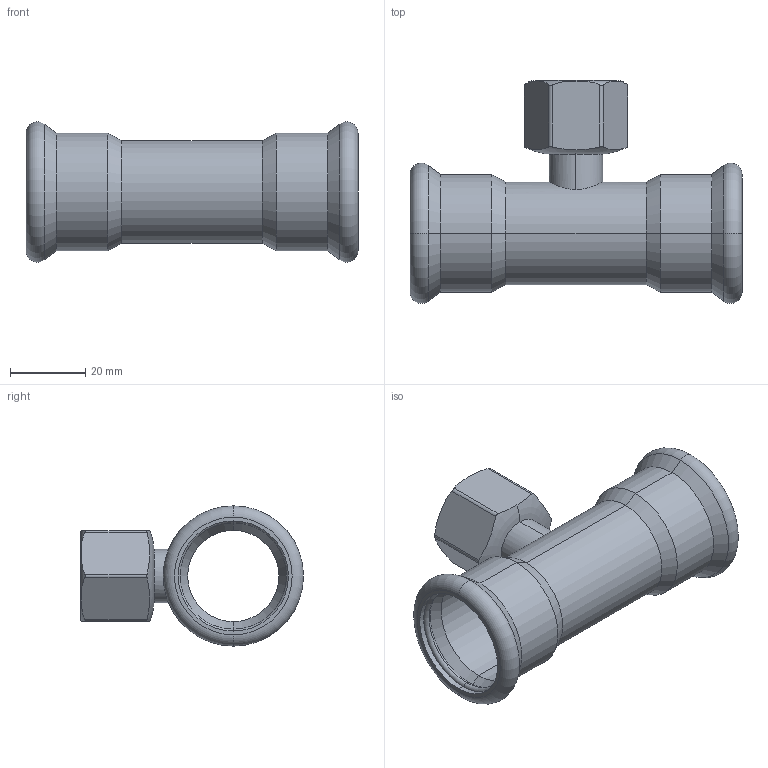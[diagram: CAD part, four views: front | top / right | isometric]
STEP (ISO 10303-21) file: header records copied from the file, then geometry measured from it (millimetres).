
FILE_DESCRIPTION (( 'STEP AP214' ), '1' );
FILE_NAME ('T28150F.STEP', '2025-08-17T14:09:22', ( '' ), ( '' ), 'SwSTEP 2.0', 'SolidWorks 2020', '' );
FILE_SCHEMA (( 'AUTOMOTIVE_DESIGN' ));
Length unit declared in the file: millimetre
Products named in the file (1): T28150F
Bounding box: 88 x 59.1 x 37.2 mm (x, y, z)
Volume: 17384.4 mm3; surface area: 22885.3 mm2
Topology: 3 solids, 3 shells, 104 faces, 249 edges, 150 vertices
Faces by surface type: cylinder 51, torus 20, cone 18, plane 12, bspline 3
Entity records: 6364 total; most frequent: CARTESIAN_POINT 2913, ORIENTED_EDGE 498, DIRECTION 454, EDGE_CURVE 249, AXIS2_PLACEMENT_3D 188, VERTEX_POINT 150, EDGE_LOOP 111, UNCERTAINTY_MEASURE_WITH_UNIT 109
